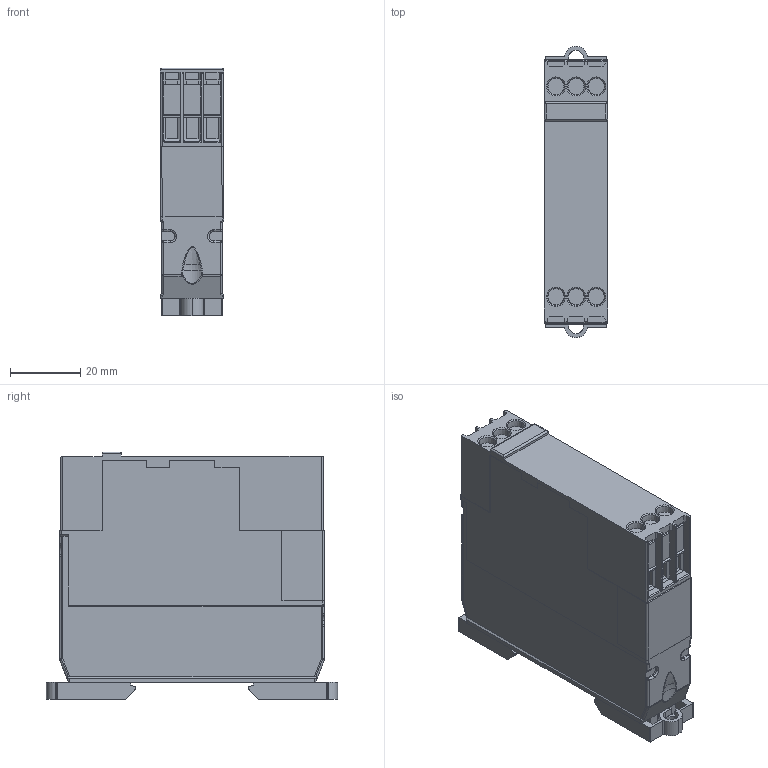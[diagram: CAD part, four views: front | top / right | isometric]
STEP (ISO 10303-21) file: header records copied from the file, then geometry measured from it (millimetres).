
FILE_DESCRIPTION (( 'STEP AP214' ), '1' );
FILE_NAME ('CRC02.STEP', '2024-04-16T07:21:39', ( '' ), ( '' ), 'SwSTEP 2.0', 'SolidWorks 2022', '' );
FILE_SCHEMA (( 'AUTOMOTIVE_DESIGN' ));
Length unit declared in the file: millimetre
Products named in the file (1): CRC02
Bounding box: 18.18 x 83.2 x 70.83 mm (x, y, z)
Volume: 87190.9 mm3; surface area: 22596.2 mm2
Topology: 1 solids, 6 shells, 718 faces, 1986 edges, 1255 vertices
Faces by surface type: plane 485, cylinder 153, cone 26, sphere 24, bspline 22, torus 8
Entity records: 30862 total; most frequent: CARTESIAN_POINT 5763, ORIENTED_EDGE 3912, DIRECTION 3266, EDGE_CURVE 1956, LINE 1364, VECTOR 1364, VERTEX_POINT 1235, AXIS2_PLACEMENT_3D 951
